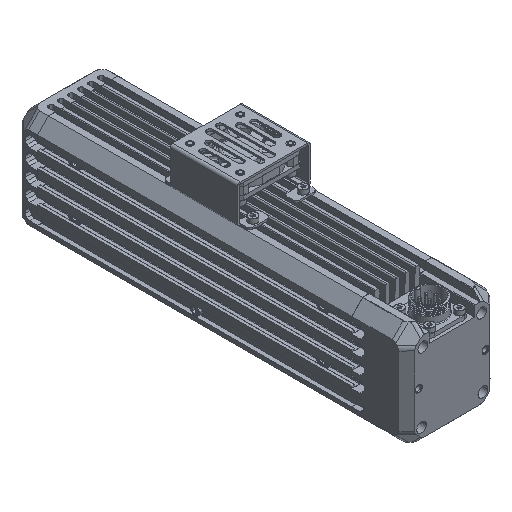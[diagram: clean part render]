
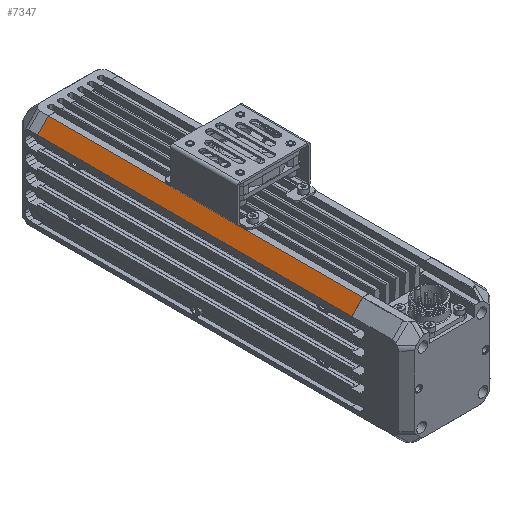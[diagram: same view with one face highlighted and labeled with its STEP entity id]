
A CAD part, isometric view. The second image highlights one B-rep face of the part: STEP entity #7347.
In plain terms, the highlighted planar face has unit normal (-0.707, 0, 0.707).
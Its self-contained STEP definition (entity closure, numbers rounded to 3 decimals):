
#485=DIRECTION('',(0.707,0.,0.707));
#486=VECTOR('',#485,9.899);
#487=CARTESIAN_POINT('',(-29.,-100.,-7.));
#488=LINE('',#487,#486);
#1511=DIRECTION('',(-0.707,0.,-0.707));
#1512=VECTOR('',#1511,9.899);
#1513=CARTESIAN_POINT('',(-22.,100.,0.));
#1514=LINE('',#1513,#1512);
#2599=DIRECTION('',(0.,-1.,0.));
#2600=VECTOR('',#2599,200.);
#2601=CARTESIAN_POINT('',(-22.,100.,0.));
#2602=LINE('',#2601,#2600);
#2603=DIRECTION('',(0.,-1.,0.));
#2604=VECTOR('',#2603,200.);
#2605=CARTESIAN_POINT('',(-29.,100.,-7.));
#2606=LINE('',#2605,#2604);
#3745=CARTESIAN_POINT('',(-22.,100.,0.));
#3746=VERTEX_POINT('',#3745);
#3747=CARTESIAN_POINT('',(-29.,100.,-7.));
#3748=VERTEX_POINT('',#3747);
#4141=CARTESIAN_POINT('',(-29.,-100.,-7.));
#4142=VERTEX_POINT('',#4141);
#4143=CARTESIAN_POINT('',(-22.,-100.,0.));
#4144=VERTEX_POINT('',#4143);
#7335=CARTESIAN_POINT('',(-29.,-100.,-7.));
#7336=DIRECTION('',(-0.707,0.,0.707));
#7337=DIRECTION('',(0.707,0.,0.707));
#7338=AXIS2_PLACEMENT_3D('',#7335,#7336,#7337);
#7339=PLANE('',#7338);
#7340=ORIENTED_EDGE('',*,*,#4741,.F.);
#7342=ORIENTED_EDGE('',*,*,#7341,.F.);
#7343=ORIENTED_EDGE('',*,*,#5397,.F.);
#7344=ORIENTED_EDGE('',*,*,#7329,.T.);
#7345=EDGE_LOOP('',(#7340,#7342,#7343,#7344));
#7346=FACE_OUTER_BOUND('',#7345,.F.);
#4741=EDGE_CURVE('',#4142,#4144,#488,.T.);
#5397=EDGE_CURVE('',#3746,#3748,#1514,.T.);
#7329=EDGE_CURVE('',#3746,#4144,#2602,.T.);
#7341=EDGE_CURVE('',#3748,#4142,#2606,.T.);
#7347=ADVANCED_FACE('',(#7346),#7339,.T.);
